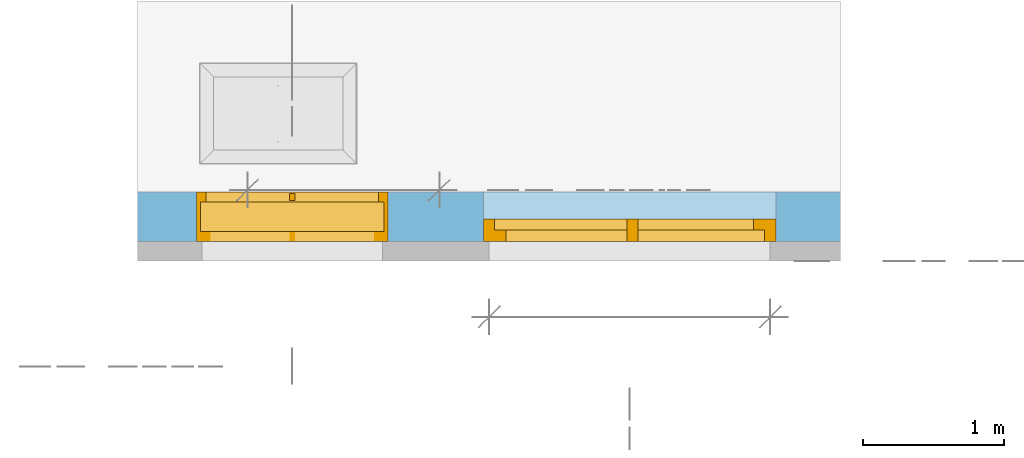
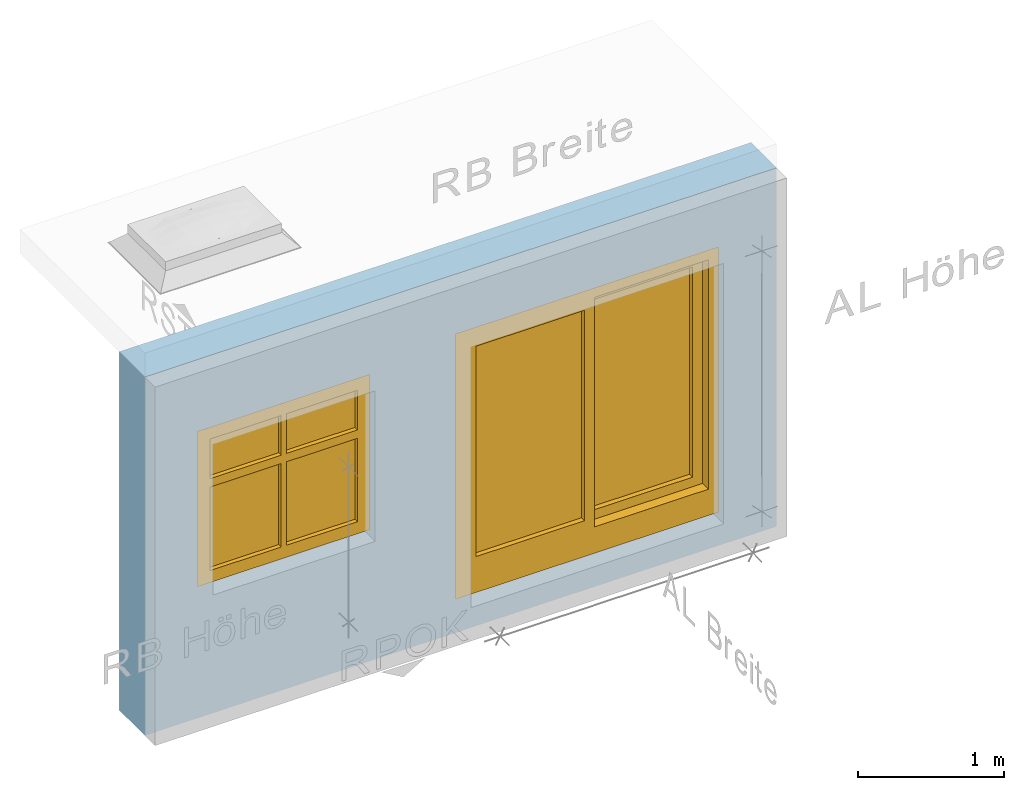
# One storey, part 3 of 5: 2 windows, 2 openings, 1 element without a shape of its own, plus 1 element that does not belong to this part.
"""IFC4 building model written with IfcOpenShell, lengths in metres."""

from ifc_helpers import new_model, entity, si_unit, converted_unit, derived_unit, frame, frame_2d, origin, origin_with_axes, place, context, subcontext, project, spatial, polyline, rectangle, outline, extrude, closed_shell, open_shell, surface_model, source, transform, mapped, material, element, fill, aggregate, save


model = new_model("IFC4")

# Units and contexts
model_context = context("Model", 3, precision=1e-05, world=origin())
body_context = subcontext(model_context, "Body", "Model", "MODEL_VIEW")
ifc_project = project(units=[si_unit("LENGTHUNIT", "METRE"), si_unit("AREAUNIT", "SQUARE_METRE"), si_unit("VOLUMEUNIT", "CUBIC_METRE"), si_unit("MASSUNIT", "GRAM", prefix="KILO"), converted_unit("PLANEANGLEUNIT", "DEGREE", entity("IfcPlaneAngleMeasure", 0.0174532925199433), si_unit("PLANEANGLEUNIT", "RADIAN"), dimensions=[0, 0, 0, 0, 0, 0, 0]), derived_unit("THERMALTRANSMITTANCEUNIT", [(si_unit("POWERUNIT", "WATT"), 1), (si_unit("THERMODYNAMICTEMPERATUREUNIT", "KELVIN"), -1), (si_unit("LENGTHUNIT", "METRE"), -2)]), derived_unit("VOLUMETRICFLOWRATEUNIT", [(si_unit("LENGTHUNIT", "METRE"), 3), (converted_unit("TIMEUNIT", "hour", entity("IfcTimeMeasure", 3600.0), si_unit("TIMEUNIT", "SECOND"), dimensions=[0, 0, 1, 0, 0, 0, 0]), -1), (si_unit("LENGTHUNIT", "METRE"), -1)])], contexts=[model_context])

# Site, building, storey
site_placement = place(None, origin())
site = spatial("IfcSite", under=ifc_project, at=site_placement, Name="Liegenschaft", CompositionType="ELEMENT")
building_placement = place(site_placement, origin())
building = spatial("IfcBuilding", under=site, at=building_placement, Name="Gebäude", CompositionType="ELEMENT")
storey_placement = place(building_placement, origin())
storey = spatial("IfcBuildingStorey", under=building, at=storey_placement, Name="Geschoss 01", CompositionType="ELEMENT", Elevation=0.0)

# Assembly, wall, openings, windows
assembly_placement = place(storey_placement, origin())
assembly = element("IfcElementAssembly", 1, at=assembly_placement, inside=storey, Name="WA_01", PredefinedType="NOTDEFINED")
ifc_material_1 = material(Name="C20/25")
wall_placement = place(storey_placement, frame((209.064213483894, 1.38187041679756, 0.0)))
wall = element("IfcWall", 2, at=wall_placement, material=ifc_material_1, Name="WA_01", context=body_context, shape_type="SweptSolid", body=[
    extrude(rectangle(XDim=5.0, YDim=0.35, at=frame_2d((2.5, 0.175), x_axis=(1.0, 0.0))), origin_with_axes(), (0.0, 0.0, 1.0), 3.0),
])
opening_1_placement = place(wall_placement, frame((2.46, 0.0, 0.28), z_axis=(0.0, 1.0, 0.0), x_axis=(0.0, 0.0, 1.0)))
opening_1 = element("IfcOpeningElement", 3, at=opening_1_placement, cuts=wall, Name="Fensteröffnung", ObjectType="Opening", context=body_context, shape_type="SweptSolid", body=[
    extrude(outline(polyline([(0.0, 2.08), (2.22, 2.08), (2.22, 0.0), (0.0, 0.0), (0.0, 2.08)])), origin_with_axes(), (0.0, 0.0, 1.0), 0.35),
])
opening_2_placement = place(wall_placement, frame((0.4175, 0.0, 1.1), z_axis=(0.0, 1.0, 0.0), x_axis=(0.0, 0.0, 1.0)))
opening_2 = element("IfcOpeningElement", 4, at=opening_2_placement, cuts=wall, Name="Fensteröffnung", ObjectType="Opening", context=body_context, shape_type="SweptSolid", body=[
    extrude(outline(polyline([(0.0, 1.365), (1.3, 1.365), (1.3, 0.0), (0.0, 0.0), (0.0, 1.365)])), origin_with_axes(), (0.0, 0.0, 1.0), 0.35),
])
ifc_material_2 = material(Name="Kunststoff")
shared_shape_1 = source(origin_with_axes(), body_context, "Body", "SurfaceModel", [
    surface_model("IfcShellBasedSurfaceModel", [(0.0154587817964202, 0.000629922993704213, 2.22), (0.0954587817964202, 0.000629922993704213, 2.22), (0.0954587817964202, 0.00062992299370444, 0.0), (0.0154587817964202, 0.00062992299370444, 0.0), (0.0154587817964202, 0.160629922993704, 0.0), (0.0954587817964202, 0.160629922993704, 0.0), (0.0954587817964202, 0.160629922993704, 2.22), (0.0154587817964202, 0.160629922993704, 2.22)], [closed_shell([[[0, 1, 2, 3]], [[4, 5, 6, 7]], [[3, 4, 7, 0]], [[2, 5, 4, 3]], [[1, 6, 5, 2]], [[0, 7, 6, 1]]], orient=[[False], [False], [False], [False], [False], [False]])]),
    surface_model("IfcShellBasedSurfaceModel", [(2.01545878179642, 0.000629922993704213, 2.22), (2.09545878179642, 0.000629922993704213, 2.22), (2.09545878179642, 0.00062992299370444, 0.0), (2.01545878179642, 0.00062992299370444, 0.0), (2.01545878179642, 0.160629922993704, 0.0), (2.09545878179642, 0.160629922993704, 0.0), (2.09545878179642, 0.160629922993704, 2.22), (2.01545878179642, 0.160629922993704, 2.22)], [closed_shell([[[0, 1, 2, 3]], [[4, 5, 6, 7]], [[3, 4, 7, 0]], [[2, 5, 4, 3]], [[1, 6, 5, 2]], [[0, 7, 6, 1]]], orient=[[False], [False], [False], [False], [False], [False]])]),
    surface_model("IfcShellBasedSurfaceModel", [(0.0954587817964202, 0.00062992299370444, 0.22), (2.01545878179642, 0.00062992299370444, 0.22), (2.01545878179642, 0.00062992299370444, 0.0), (0.0954587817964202, 0.00062992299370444, 0.0), (0.0954587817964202, 0.160629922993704, 0.0), (2.01545878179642, 0.160629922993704, 0.0), (2.01545878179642, 0.160629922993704, 0.22), (0.0954587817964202, 0.160629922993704, 0.22)], [closed_shell([[[0, 1, 2, 3]], [[4, 5, 6, 7]], [[3, 4, 7, 0]], [[2, 5, 4, 3]], [[1, 6, 5, 2]], [[0, 7, 6, 1]]], orient=[[False], [False], [False], [False], [False], [False]])]),
    surface_model("IfcShellBasedSurfaceModel", [(0.0954587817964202, 0.000629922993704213, 2.22), (2.01545878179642, 0.000629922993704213, 2.22), (2.01545878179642, 0.000629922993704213, 2.14), (0.0954587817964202, 0.000629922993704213, 2.14), (0.0954587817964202, 0.160629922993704, 2.14), (2.01545878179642, 0.160629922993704, 2.14), (2.01545878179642, 0.160629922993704, 2.22), (0.0954587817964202, 0.160629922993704, 2.22)], [closed_shell([[[0, 1, 2, 3]], [[4, 5, 6, 7]], [[3, 4, 7, 0]], [[2, 5, 4, 3]], [[1, 6, 5, 2]], [[0, 7, 6, 1]]], orient=[[False], [False], [False], [False], [False], [False]])]),
    surface_model("IfcShellBasedSurfaceModel", [(0.99545878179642, 0.0806299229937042, 2.14), (1.07545878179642, 0.0806299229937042, 2.14), (1.07545878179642, 0.0806299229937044, 0.22), (0.99545878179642, 0.0806299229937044, 0.22), (0.99545878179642, 0.160629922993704, 0.22), (1.07545878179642, 0.160629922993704, 0.22), (1.07545878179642, 0.160629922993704, 2.14), (0.99545878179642, 0.160629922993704, 2.14)], [closed_shell([[[0, 1, 2, 3]], [[4, 5, 6, 7]], [[3, 4, 7, 0]], [[2, 5, 4, 3]], [[1, 6, 5, 2]], [[0, 7, 6, 1]]], orient=[[False], [False], [False], [False], [False], [False]])]),
    surface_model("IfcShellBasedSurfaceModel", [(0.0954587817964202, 0.000629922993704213, 2.14), (0.17545878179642, 0.000629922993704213, 2.14), (0.17545878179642, 0.00062992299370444, 0.22), (0.0954587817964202, 0.00062992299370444, 0.22), (0.0954587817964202, 0.0806299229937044, 0.22), (0.17545878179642, 0.0806299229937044, 0.22), (0.17545878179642, 0.0806299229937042, 2.14), (0.0954587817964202, 0.0806299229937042, 2.14)], [closed_shell([[[0, 1, 2, 3]], [[4, 5, 6, 7]], [[3, 4, 7, 0]], [[2, 5, 4, 3]], [[1, 6, 5, 2]], [[0, 7, 6, 1]]], orient=[[False], [False], [False], [False], [False], [False]])]),
    surface_model("IfcShellBasedSurfaceModel", [(0.99545878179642, 0.000629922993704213, 2.14), (1.07545878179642, 0.000629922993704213, 2.14), (1.07545878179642, 0.00062992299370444, 0.22), (0.99545878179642, 0.00062992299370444, 0.22), (0.99545878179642, 0.0806299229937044, 0.22), (1.07545878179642, 0.0806299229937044, 0.22), (1.07545878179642, 0.0806299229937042, 2.14), (0.99545878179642, 0.0806299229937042, 2.14)], [closed_shell([[[0, 1, 2, 3]], [[4, 5, 6, 7]], [[3, 4, 7, 0]], [[2, 5, 4, 3]], [[1, 6, 5, 2]], [[0, 7, 6, 1]]], orient=[[False], [False], [False], [False], [False], [False]])]),
    surface_model("IfcShellBasedSurfaceModel", [(0.17545878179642, 0.00062992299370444, 0.3), (0.99545878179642, 0.00062992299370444, 0.3), (0.99545878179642, 0.00062992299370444, 0.22), (0.17545878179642, 0.00062992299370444, 0.22), (0.17545878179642, 0.0806299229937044, 0.22), (0.99545878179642, 0.0806299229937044, 0.22), (0.99545878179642, 0.0806299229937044, 0.3), (0.17545878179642, 0.0806299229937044, 0.3)], [closed_shell([[[0, 1, 2, 3]], [[4, 5, 6, 7]], [[3, 4, 7, 0]], [[2, 5, 4, 3]], [[1, 6, 5, 2]], [[0, 7, 6, 1]]], orient=[[False], [False], [False], [False], [False], [False]])]),
    surface_model("IfcShellBasedSurfaceModel", [(0.17545878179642, 0.000629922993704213, 2.14), (0.99545878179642, 0.000629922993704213, 2.14), (0.99545878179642, 0.000629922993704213, 2.06), (0.17545878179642, 0.000629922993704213, 2.06), (0.17545878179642, 0.0806299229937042, 2.06), (0.99545878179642, 0.0806299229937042, 2.06), (0.99545878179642, 0.0806299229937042, 2.14), (0.17545878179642, 0.0806299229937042, 2.14)], [closed_shell([[[0, 1, 2, 3]], [[4, 5, 6, 7]], [[3, 4, 7, 0]], [[2, 5, 4, 3]], [[1, 6, 5, 2]], [[0, 7, 6, 1]]], orient=[[False], [False], [False], [False], [False], [False]])]),
    surface_model("IfcShellBasedSurfaceModel", [(0.12295878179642, 0.000629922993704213, 1.29), (0.12295878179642, 0.000629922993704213, 1.25), (0.14795878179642, 0.000629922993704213, 1.25), (0.14795878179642, 0.000629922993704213, 1.29), (0.12295878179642, -0.00937007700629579, 1.25), (0.12295878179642, -0.00937007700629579, 1.29), (0.14795878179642, -0.00937007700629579, 1.29), (0.14795878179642, -0.00937007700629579, 1.25)], [closed_shell([[[0, 1, 2, 3]], [[4, 5, 6, 7]], [[1, 0, 5, 4]], [[2, 1, 4, 7]], [[3, 2, 7, 6]], [[0, 3, 6, 5]]], orient=[[False], [False], [False], [False], [False], [False]])]),
    surface_model("IfcShellBasedSurfaceModel", [(0.14545878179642, -0.00937007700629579, 1.27), (0.144119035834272, -0.00937007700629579, 1.275), (0.14045878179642, -0.00937007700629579, 1.27866025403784), (0.13545878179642, -0.00937007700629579, 1.28), (0.13045878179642, -0.00937007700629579, 1.27866025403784), (0.126798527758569, -0.00937007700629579, 1.275), (0.12545878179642, -0.00937007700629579, 1.27), (0.126798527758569, -0.00937007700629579, 1.265), (0.13045878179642, -0.00937007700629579, 1.26133974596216), (0.13545878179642, -0.00937007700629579, 1.26), (0.14045878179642, -0.00937007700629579, 1.26133974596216), (0.144119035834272, -0.00937007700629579, 1.265), (0.14545878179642, -0.0493700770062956, 1.27), (0.144119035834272, -0.0543700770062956, 1.275), (0.14045878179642, -0.05803033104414, 1.27866025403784), (0.13545878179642, -0.0593700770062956, 1.28), (0.13045878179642, -0.05803033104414, 1.27866025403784), (0.126798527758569, -0.0543700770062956, 1.275), (0.12545878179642, -0.0493700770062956, 1.27), (0.126798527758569, -0.0443700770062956, 1.265), (0.13045878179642, -0.0407098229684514, 1.26133974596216), (0.13545878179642, -0.0393700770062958, 1.26), (0.14045878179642, -0.0407098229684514, 1.26133974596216), (0.144119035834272, -0.0443700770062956, 1.265), (0.14545878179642, -0.0493700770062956, 1.155), (0.144119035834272, -0.0443700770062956, 1.155), (0.14045878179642, -0.0407098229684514, 1.155), (0.13545878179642, -0.0393700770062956, 1.155), (0.13045878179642, -0.0407098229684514, 1.155), (0.126798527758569, -0.0443700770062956, 1.155), (0.12545878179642, -0.0493700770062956, 1.155), (0.126798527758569, -0.0543700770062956, 1.155), (0.13045878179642, -0.05803033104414, 1.155), (0.13545878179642, -0.0593700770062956, 1.155), (0.14045878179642, -0.05803033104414, 1.155), (0.144119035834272, -0.0543700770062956, 1.155)], [closed_shell([[[0, 1, 2, 3, 4, 5, 6, 7, 8, 9, 10, 11]], [[0, 12, 13, 1]], [[1, 13, 14, 2]], [[2, 14, 15, 3]], [[3, 15, 16, 4]], [[4, 16, 17, 5]], [[5, 17, 18, 6]], [[6, 18, 19, 7]], [[7, 19, 20, 8]], [[8, 20, 21, 9]], [[9, 21, 22, 10]], [[10, 22, 23, 11]], [[11, 23, 12, 0]], [[24, 25, 26, 27, 28, 29, 30, 31, 32, 33, 34, 35]], [[12, 24, 35, 13]], [[13, 35, 34, 14]], [[14, 34, 33, 15]], [[15, 33, 32, 16]], [[16, 32, 31, 17]], [[17, 31, 30, 18]], [[18, 30, 29, 19]], [[19, 29, 28, 20]], [[20, 28, 27, 21]], [[21, 27, 26, 22]], [[22, 26, 25, 23]], [[23, 25, 24, 12]]], orient=[[False], [False], [False], [False], [False], [False], [False], [False], [False], [False], [False], [False], [False], [False], [False], [False], [False], [False], [False], [False], [False], [False], [False], [False], [False], [False]])]),
    surface_model("IfcShellBasedSurfaceModel", [(1.93545878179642, 0.0806299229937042, 2.14), (2.01545878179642, 0.0806299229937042, 2.14), (2.01545878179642, 0.0806299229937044, 0.22), (1.93545878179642, 0.0806299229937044, 0.22), (1.93545878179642, 0.160629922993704, 0.22), (2.01545878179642, 0.160629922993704, 0.22), (2.01545878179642, 0.160629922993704, 2.14), (1.93545878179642, 0.160629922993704, 2.14)], [closed_shell([[[0, 1, 2, 3]], [[4, 5, 6, 7]], [[3, 4, 7, 0]], [[2, 5, 4, 3]], [[1, 6, 5, 2]], [[0, 7, 6, 1]]], orient=[[False], [False], [False], [False], [False], [False]])]),
    surface_model("IfcShellBasedSurfaceModel", [(1.07545878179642, 0.0806299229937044, 0.3), (1.93545878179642, 0.0806299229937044, 0.3), (1.93545878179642, 0.0806299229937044, 0.22), (1.07545878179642, 0.0806299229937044, 0.22), (1.07545878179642, 0.160629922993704, 0.22), (1.93545878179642, 0.160629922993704, 0.22), (1.93545878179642, 0.160629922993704, 0.3), (1.07545878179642, 0.160629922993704, 0.3)], [closed_shell([[[0, 1, 2, 3]], [[4, 5, 6, 7]], [[3, 4, 7, 0]], [[2, 5, 4, 3]], [[1, 6, 5, 2]], [[0, 7, 6, 1]]], orient=[[False], [False], [False], [False], [False], [False]])]),
    surface_model("IfcShellBasedSurfaceModel", [(1.07545878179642, 0.0806299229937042, 2.14), (1.93545878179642, 0.0806299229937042, 2.14), (1.93545878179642, 0.0806299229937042, 2.06), (1.07545878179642, 0.0806299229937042, 2.06), (1.07545878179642, 0.160629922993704, 2.06), (1.93545878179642, 0.160629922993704, 2.06), (1.93545878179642, 0.160629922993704, 2.14), (1.07545878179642, 0.160629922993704, 2.14)], [closed_shell([[[0, 1, 2, 3]], [[4, 5, 6, 7]], [[3, 4, 7, 0]], [[2, 5, 4, 3]], [[1, 6, 5, 2]], [[0, 7, 6, 1]]], orient=[[False], [False], [False], [False], [False], [False]])]),
    surface_model("IfcShellBasedSurfaceModel", [(0.17545878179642, 0.0406299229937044, 0.3), (0.17545878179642, 0.0406299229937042, 2.06), (0.99545878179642, 0.0406299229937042, 2.06), (0.99545878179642, 0.0406299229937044, 0.3)], [open_shell([[[0, 1, 2, 3]]], orient=[[False]])]),
    surface_model("IfcShellBasedSurfaceModel", [(1.07545878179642, 0.120629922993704, 0.3), (1.07545878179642, 0.120629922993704, 2.06), (1.93545878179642, 0.120629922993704, 2.06), (1.93545878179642, 0.120629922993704, 0.3)], [open_shell([[[0, 1, 2, 3]]], orient=[[False]])]),
])
window_1_placement = place(opening_1_placement, frame((0.0, 2.09545878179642, 0.160629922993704), z_axis=(1.0, 0.0, 0.0), x_axis=(0.0, -1.0, 0.0)))
window_1 = element("IfcWindow", 5, at=window_1_placement, material=ifc_material_2, Name="Fenster", OverallHeight=2.22, OverallWidth=2.08, PartitioningType="NOTDEFINED", PredefinedType="USERDEFINED", context=body_context, shape_type="MappedRepresentation", body=[
    mapped(shared_shape_1, transform((0.0, 0.0, 0.0), x_axis=(1.0, 0.0, 0.0), y_axis=(0.0, 1.0, 0.0), z_axis=(0.0, 0.0, 1.0), scale=1.0)),
])
fill(opening_1, window_1)
ifc_material_3 = material(Name="Holz weiß lackiert")
shared_shape_2 = source(origin_with_axes(), body_context, "Body", "SurfaceModel", [
    surface_model("IfcShellBasedSurfaceModel", [(1.37069534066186, 0.000232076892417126, 1.3), (1.37069534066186, 0.000232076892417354, 0.0), (1.34069534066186, 0.000232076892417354, 0.0), (1.34069534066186, 0.000232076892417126, 1.3), (1.37069534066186, 0.280232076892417, 0.0), (1.37069534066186, 0.280232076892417, 1.3), (1.34069534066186, 0.280232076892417, 1.3), (1.34069534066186, 0.280232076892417, 0.0)], [closed_shell([[[0, 1, 2, 3]], [[4, 5, 6, 7]], [[1, 0, 5, 4]], [[2, 1, 4, 7]], [[3, 2, 7, 6]], [[0, 3, 6, 5]]], orient=[[False], [False], [False], [False], [False], [False]])]),
    surface_model("IfcShellBasedSurfaceModel", [(0.0356953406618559, 0.000232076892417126, 1.3), (0.0356953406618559, 0.000232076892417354, 0.0), (0.00569534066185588, 0.000232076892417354, 0.0), (0.00569534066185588, 0.000232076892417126, 1.3), (0.0356953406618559, 0.280232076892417, 0.0), (0.0356953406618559, 0.280232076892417, 1.3), (0.00569534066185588, 0.280232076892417, 1.3), (0.00569534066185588, 0.280232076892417, 0.0)], [closed_shell([[[0, 1, 2, 3]], [[4, 5, 6, 7]], [[1, 0, 5, 4]], [[2, 1, 4, 7]], [[3, 2, 7, 6]], [[0, 3, 6, 5]]], orient=[[False], [False], [False], [False], [False], [False]])]),
    surface_model("IfcShellBasedSurfaceModel", [(1.34069534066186, 0.000232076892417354, 0.03), (1.34069534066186, 0.000232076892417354, 0.0), (0.0356953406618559, 0.000232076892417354, 0.0), (0.0356953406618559, 0.000232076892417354, 0.03), (1.34069534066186, 0.280232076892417, 0.0), (1.34069534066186, 0.280232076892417, 0.03), (0.0356953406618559, 0.280232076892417, 0.03), (0.0356953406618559, 0.280232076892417, 0.0)], [closed_shell([[[0, 1, 2, 3]], [[4, 5, 6, 7]], [[1, 0, 5, 4]], [[2, 1, 4, 7]], [[3, 2, 7, 6]], [[0, 3, 6, 5]]], orient=[[False], [False], [False], [False], [False], [False]])]),
    surface_model("IfcShellBasedSurfaceModel", [(1.34069534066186, 0.000232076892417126, 1.3), (1.34069534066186, 0.000232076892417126, 1.27), (0.0356953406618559, 0.000232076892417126, 1.27), (0.0356953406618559, 0.000232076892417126, 1.3), (1.34069534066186, 0.280232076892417, 1.27), (1.34069534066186, 0.280232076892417, 1.3), (0.0356953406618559, 0.280232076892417, 1.3), (0.0356953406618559, 0.280232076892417, 1.27)], [closed_shell([[[0, 1, 2, 3]], [[4, 5, 6, 7]], [[1, 0, 5, 4]], [[2, 1, 4, 7]], [[3, 2, 7, 6]], [[0, 3, 6, 5]]], orient=[[False], [False], [False], [False], [False], [False]])]),
    surface_model("IfcShellBasedSurfaceModel", [(1.34069534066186, 0.210232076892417, 1.27), (1.34069534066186, 0.210232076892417, 0.03), (1.27069534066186, 0.210232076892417, 0.03), (1.27069534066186, 0.210232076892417, 1.27), (1.34069534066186, 0.280232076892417, 0.03), (1.34069534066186, 0.280232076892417, 1.27), (1.27069534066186, 0.280232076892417, 1.27), (1.27069534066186, 0.280232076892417, 0.03)], [closed_shell([[[0, 1, 2, 3]], [[4, 5, 6, 7]], [[1, 0, 5, 4]], [[2, 1, 4, 7]], [[3, 2, 7, 6]], [[0, 3, 6, 5]]], orient=[[False], [False], [False], [False], [False], [False]])]),
    surface_model("IfcShellBasedSurfaceModel", [(0.105695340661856, 0.210232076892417, 1.27), (0.105695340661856, 0.210232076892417, 0.03), (0.0356953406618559, 0.210232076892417, 0.03), (0.0356953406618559, 0.210232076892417, 1.27), (0.105695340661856, 0.280232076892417, 0.03), (0.105695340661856, 0.280232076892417, 1.27), (0.0356953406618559, 0.280232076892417, 1.27), (0.0356953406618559, 0.280232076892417, 0.03)], [closed_shell([[[0, 1, 2, 3]], [[4, 5, 6, 7]], [[1, 0, 5, 4]], [[2, 1, 4, 7]], [[3, 2, 7, 6]], [[0, 3, 6, 5]]], orient=[[False], [False], [False], [False], [False], [False]])]),
    surface_model("IfcShellBasedSurfaceModel", [(1.27069534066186, 0.210232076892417, 0.1), (1.27069534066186, 0.210232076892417, 0.03), (0.105695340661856, 0.210232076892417, 0.03), (0.105695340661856, 0.210232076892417, 0.1), (1.27069534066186, 0.280232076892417, 0.03), (1.27069534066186, 0.280232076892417, 0.1), (0.105695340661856, 0.280232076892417, 0.1), (0.105695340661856, 0.280232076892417, 0.03)], [closed_shell([[[0, 1, 2, 3]], [[4, 5, 6, 7]], [[1, 0, 5, 4]], [[2, 1, 4, 7]], [[3, 2, 7, 6]], [[0, 3, 6, 5]]], orient=[[False], [False], [False], [False], [False], [False]])]),
    surface_model("IfcShellBasedSurfaceModel", [(1.27069534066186, 0.210232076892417, 1.27), (1.27069534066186, 0.210232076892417, 1.2), (0.105695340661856, 0.210232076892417, 1.2), (0.105695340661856, 0.210232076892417, 1.27), (1.27069534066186, 0.280232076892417, 1.2), (1.27069534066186, 0.280232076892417, 1.27), (0.105695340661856, 0.280232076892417, 1.27), (0.105695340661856, 0.280232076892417, 1.2)], [closed_shell([[[0, 1, 2, 3]], [[4, 5, 6, 7]], [[1, 0, 5, 4]], [[2, 1, 4, 7]], [[3, 2, 7, 6]], [[0, 3, 6, 5]]], orient=[[False], [False], [False], [False], [False], [False]])]),
    surface_model("IfcShellBasedSurfaceModel", [(1.27069534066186, 0.210232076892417, 0.868333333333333), (1.27069534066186, 0.210232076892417, 0.798333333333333), (0.105695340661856, 0.210232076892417, 0.798333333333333), (0.105695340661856, 0.210232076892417, 0.868333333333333), (1.27069534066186, 0.280232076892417, 0.798333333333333), (1.27069534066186, 0.280232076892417, 0.868333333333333), (0.105695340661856, 0.280232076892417, 0.868333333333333), (0.105695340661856, 0.280232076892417, 0.798333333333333)], [closed_shell([[[0, 1, 2, 3]], [[4, 5, 6, 7]], [[1, 0, 5, 4]], [[2, 1, 4, 7]], [[3, 2, 7, 6]], [[0, 3, 6, 5]]], orient=[[False], [False], [False], [False], [False], [False]])]),
    surface_model("IfcShellBasedSurfaceModel", [(0.708195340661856, 0.210232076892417, 0.798333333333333), (0.708195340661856, 0.210232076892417, 0.1), (0.668195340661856, 0.210232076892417, 0.1), (0.668195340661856, 0.210232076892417, 0.798333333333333), (0.708195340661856, 0.280232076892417, 0.1), (0.708195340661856, 0.280232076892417, 0.798333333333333), (0.668195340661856, 0.280232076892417, 0.798333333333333), (0.668195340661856, 0.280232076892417, 0.1)], [closed_shell([[[0, 1, 2, 3]], [[4, 5, 6, 7]], [[1, 0, 5, 4]], [[2, 1, 4, 7]], [[3, 2, 7, 6]], [[0, 3, 6, 5]]], orient=[[False], [False], [False], [False], [False], [False]])]),
    surface_model("IfcShellBasedSurfaceModel", [(0.708195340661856, 0.210232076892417, 1.2), (0.708195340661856, 0.210232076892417, 0.868333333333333), (0.668195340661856, 0.210232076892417, 0.868333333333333), (0.668195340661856, 0.210232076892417, 1.2), (0.708195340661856, 0.280232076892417, 0.868333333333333), (0.708195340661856, 0.280232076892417, 1.2), (0.668195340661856, 0.280232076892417, 1.2), (0.668195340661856, 0.280232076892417, 0.868333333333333)], [closed_shell([[[0, 1, 2, 3]], [[4, 5, 6, 7]], [[1, 0, 5, 4]], [[2, 1, 4, 7]], [[3, 2, 7, 6]], [[0, 3, 6, 5]]], orient=[[False], [False], [False], [False], [False], [False]])]),
    surface_model("IfcShellBasedSurfaceModel", [(1.27069534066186, 0.245232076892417, 0.868333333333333), (0.708195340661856, 0.245232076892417, 0.868333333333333), (0.708195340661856, 0.245232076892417, 1.2), (1.27069534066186, 0.245232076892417, 1.2)], [open_shell([[[0, 1, 2, 3]]], orient=[[False]])]),
    surface_model("IfcShellBasedSurfaceModel", [(0.668195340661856, 0.245232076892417, 0.868333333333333), (0.105695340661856, 0.245232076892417, 0.868333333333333), (0.105695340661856, 0.245232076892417, 1.2), (0.668195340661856, 0.245232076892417, 1.2)], [open_shell([[[0, 1, 2, 3]]], orient=[[False]])]),
    surface_model("IfcShellBasedSurfaceModel", [(1.27069534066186, 0.245232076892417, 0.1), (0.708195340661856, 0.245232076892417, 0.1), (0.708195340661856, 0.245232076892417, 0.798333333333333), (1.27069534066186, 0.245232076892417, 0.798333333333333)], [open_shell([[[0, 1, 2, 3]]], orient=[[False]])]),
    surface_model("IfcShellBasedSurfaceModel", [(0.668195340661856, 0.245232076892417, 0.1), (0.105695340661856, 0.245232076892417, 0.1), (0.105695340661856, 0.245232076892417, 0.798333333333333), (0.668195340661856, 0.245232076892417, 0.798333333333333)], [open_shell([[[0, 1, 2, 3]]], orient=[[False]])]),
])
shared_shape_3 = source(origin_with_axes(), body_context, "Body", "SurfaceModel", [
    surface_model("IfcShellBasedSurfaceModel", [(1.37069534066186, -0.0697679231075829, 1.3), (1.37069534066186, -0.0697679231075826, 0.0), (1.30069534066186, -0.0697679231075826, 0.0), (1.30069534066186, -0.0697679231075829, 1.3), (1.37069534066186, 0.000232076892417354, 0.0), (1.37069534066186, 0.000232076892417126, 1.3), (1.30069534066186, 0.000232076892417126, 1.3), (1.30069534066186, 0.000232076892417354, 0.0)], [closed_shell([[[0, 1, 2, 3]], [[4, 5, 6, 7]], [[1, 0, 5, 4]], [[2, 1, 4, 7]], [[3, 2, 7, 6]], [[0, 3, 6, 5]]], orient=[[False], [False], [False], [False], [False], [False]])]),
    surface_model("IfcShellBasedSurfaceModel", [(0.0756953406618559, -0.0697679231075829, 1.3), (0.0756953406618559, -0.0697679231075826, 0.0), (0.00569534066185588, -0.0697679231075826, 0.0), (0.00569534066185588, -0.0697679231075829, 1.3), (0.0756953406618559, 0.000232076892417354, 0.0), (0.0756953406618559, 0.000232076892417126, 1.3), (0.00569534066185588, 0.000232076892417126, 1.3), (0.00569534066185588, 0.000232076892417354, 0.0)], [closed_shell([[[0, 1, 2, 3]], [[4, 5, 6, 7]], [[1, 0, 5, 4]], [[2, 1, 4, 7]], [[3, 2, 7, 6]], [[0, 3, 6, 5]]], orient=[[False], [False], [False], [False], [False], [False]])]),
    surface_model("IfcShellBasedSurfaceModel", [(1.30069534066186, -0.0697679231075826, 0.07), (1.30069534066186, -0.0697679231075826, 0.0), (0.0756953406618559, -0.0697679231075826, 0.0), (0.0756953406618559, -0.0697679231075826, 0.07), (1.30069534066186, 0.000232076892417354, 0.0), (1.30069534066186, 0.000232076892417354, 0.07), (0.0756953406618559, 0.000232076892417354, 0.07), (0.0756953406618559, 0.000232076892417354, 0.0)], [closed_shell([[[0, 1, 2, 3]], [[4, 5, 6, 7]], [[1, 0, 5, 4]], [[2, 1, 4, 7]], [[3, 2, 7, 6]], [[0, 3, 6, 5]]], orient=[[False], [False], [False], [False], [False], [False]])]),
    surface_model("IfcShellBasedSurfaceModel", [(1.30069534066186, -0.0697679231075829, 1.3), (1.30069534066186, -0.0697679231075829, 1.23), (0.0756953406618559, -0.0697679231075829, 1.23), (0.0756953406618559, -0.0697679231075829, 1.3), (1.30069534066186, 0.000232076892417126, 1.23), (1.30069534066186, 0.000232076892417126, 1.3), (0.0756953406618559, 0.000232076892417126, 1.3), (0.0756953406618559, 0.000232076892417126, 1.23)], [closed_shell([[[0, 1, 2, 3]], [[4, 5, 6, 7]], [[1, 0, 5, 4]], [[2, 1, 4, 7]], [[3, 2, 7, 6]], [[0, 3, 6, 5]]], orient=[[False], [False], [False], [False], [False], [False]])]),
    surface_model("IfcShellBasedSurfaceModel", [(1.30069534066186, -0.0697679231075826, 0.878333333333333), (1.30069534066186, -0.0697679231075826, 0.808333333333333), (0.0756953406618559, -0.0697679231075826, 0.808333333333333), (0.0756953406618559, -0.0697679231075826, 0.878333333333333), (1.30069534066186, 0.000232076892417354, 0.808333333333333), (1.30069534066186, 0.000232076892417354, 0.878333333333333), (0.0756953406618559, 0.000232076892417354, 0.878333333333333), (0.0756953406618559, 0.000232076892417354, 0.808333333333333)], [closed_shell([[[0, 1, 2, 3]], [[4, 5, 6, 7]], [[1, 0, 5, 4]], [[2, 1, 4, 7]], [[3, 2, 7, 6]], [[0, 3, 6, 5]]], orient=[[False], [False], [False], [False], [False], [False]])]),
    surface_model("IfcShellBasedSurfaceModel", [(0.708195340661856, -0.0597679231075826, 0.808333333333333), (0.708195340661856, -0.0597679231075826, 0.07), (0.668195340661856, -0.0597679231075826, 0.07), (0.668195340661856, -0.0597679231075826, 0.808333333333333), (0.708195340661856, -0.00976792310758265, 0.07), (0.708195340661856, -0.00976792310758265, 0.808333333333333), (0.668195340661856, -0.00976792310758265, 0.808333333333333), (0.668195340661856, -0.00976792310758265, 0.07)], [closed_shell([[[0, 1, 2, 3]], [[4, 5, 6, 7]], [[1, 0, 5, 4]], [[2, 1, 4, 7]], [[3, 2, 7, 6]], [[0, 3, 6, 5]]], orient=[[False], [False], [False], [False], [False], [False]])]),
    surface_model("IfcShellBasedSurfaceModel", [(0.708195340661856, -0.0597679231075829, 1.23), (0.708195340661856, -0.0597679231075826, 0.878333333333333), (0.668195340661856, -0.0597679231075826, 0.878333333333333), (0.668195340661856, -0.0597679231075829, 1.23), (0.708195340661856, -0.00976792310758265, 0.878333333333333), (0.708195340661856, -0.00976792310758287, 1.23), (0.668195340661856, -0.00976792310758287, 1.23), (0.668195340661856, -0.00976792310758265, 0.878333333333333)], [closed_shell([[[0, 1, 2, 3]], [[4, 5, 6, 7]], [[1, 0, 5, 4]], [[2, 1, 4, 7]], [[3, 2, 7, 6]], [[0, 3, 6, 5]]], orient=[[False], [False], [False], [False], [False], [False]])]),
    surface_model("IfcShellBasedSurfaceModel", [(1.30069534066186, -0.0347679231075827, 0.878333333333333), (0.708195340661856, -0.0347679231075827, 0.878333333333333), (0.708195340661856, -0.0347679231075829, 1.23), (1.30069534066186, -0.0347679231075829, 1.23)], [open_shell([[[0, 1, 2, 3]]], orient=[[False]])]),
    surface_model("IfcShellBasedSurfaceModel", [(0.668195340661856, -0.0347679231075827, 0.878333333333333), (0.0756953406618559, -0.0347679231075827, 0.878333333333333), (0.0756953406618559, -0.0347679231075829, 1.23), (0.668195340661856, -0.0347679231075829, 1.23)], [open_shell([[[0, 1, 2, 3]]], orient=[[False]])]),
    surface_model("IfcShellBasedSurfaceModel", [(1.30069534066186, -0.0347679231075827, 0.07), (0.708195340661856, -0.0347679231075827, 0.07), (0.708195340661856, -0.0347679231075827, 0.808333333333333), (1.30069534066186, -0.0347679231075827, 0.808333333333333)], [open_shell([[[0, 1, 2, 3]]], orient=[[False]])]),
    surface_model("IfcShellBasedSurfaceModel", [(0.668195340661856, -0.0347679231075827, 0.07), (0.0756953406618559, -0.0347679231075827, 0.07), (0.0756953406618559, -0.0347679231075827, 0.808333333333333), (0.668195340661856, -0.0347679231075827, 0.808333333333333)], [open_shell([[[0, 1, 2, 3]]], orient=[[False]])]),
])
window_2_placement = place(opening_2_placement, frame((0.0, 1.37069534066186, 0.280232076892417), z_axis=(1.0, 0.0, 0.0), x_axis=(0.0, -1.0, 0.0)))
window_2 = element("IfcWindow", 6, at=window_2_placement, material=ifc_material_3, Name="FE_01", OverallHeight=1.3, OverallWidth=1.365, PartitioningType="NOTDEFINED", PredefinedType="USERDEFINED", context=body_context, shape_type="MappedRepresentation", body=[
    mapped(shared_shape_2, transform((0.0, 0.0, 0.0), x_axis=(1.0, 0.0, 0.0), y_axis=(0.0, 1.0, 0.0), z_axis=(0.0, 0.0, 1.0), scale=1.0)),
    mapped(shared_shape_3, transform((0.0, 0.0, 0.0), x_axis=(1.0, 0.0, 0.0), y_axis=(0.0, 1.0, 0.0), z_axis=(0.0, 0.0, 1.0), scale=1.0)),
])
fill(opening_2, window_2)
aggregate(assembly, [wall, window_1, window_2])

save(model, "model.ifc")
